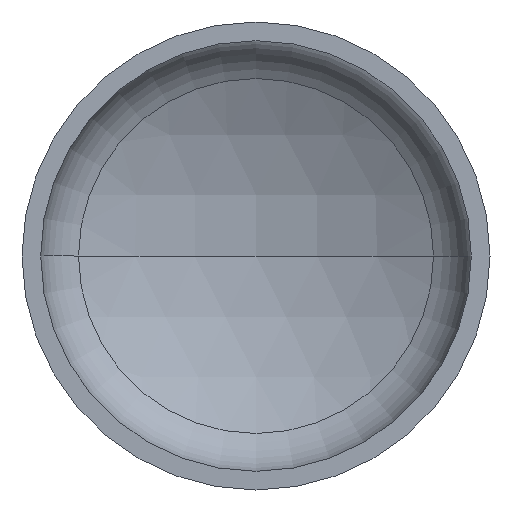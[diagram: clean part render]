
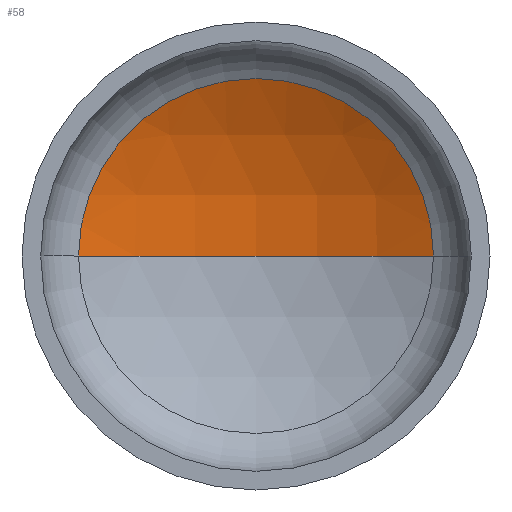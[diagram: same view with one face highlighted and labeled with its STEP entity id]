
A CAD part, front view. The second image highlights one B-rep face of the part: STEP entity #58.
In plain terms, the highlighted spherical face has radius 1120 mm.
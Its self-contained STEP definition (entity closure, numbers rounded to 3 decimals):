
#14 = EDGE_LOOP ( 'NONE', ( #70, #26, #20 ) ) ;
#20 = ORIENTED_EDGE ( 'NONE', *, *, #167, .T. ) ;
#26 = ORIENTED_EDGE ( 'NONE', *, *, #101, .T. ) ;
#49 = VERTEX_POINT ( 'NONE', #235 ) ;
#58 = ADVANCED_FACE ( 'NONE', ( #242 ), #307, .F. ) ;
#68 = VERTEX_POINT ( 'NONE', #333 ) ;
#70 = ORIENTED_EDGE ( 'NONE', *, *, #410, .F. ) ;
#84 = VERTEX_POINT ( 'NONE', #328 ) ;
#101 = EDGE_CURVE ( 'NONE', #49, #84, #375, .T. ) ;
#110 = AXIS2_PLACEMENT_3D ( 'NONE', #132, #133, #259 ) ;
#132 = CARTESIAN_POINT ( 'NONE',  ( 0., -676.859, 0. ) ) ;
#133 = DIRECTION ( 'NONE',  ( 0., 0., 1. ) ) ;
#167 = EDGE_CURVE ( 'NONE', #84, #68, #360, .T. ) ;
#168 = DIRECTION ( 'NONE',  ( 0., 0., -1. ) ) ;
#186 = DIRECTION ( 'NONE',  ( -1., 0., 0. ) ) ;
#192 = DIRECTION ( 'NONE',  ( 1., 0., 0. ) ) ;
#197 = CARTESIAN_POINT ( 'NONE',  ( 0., 309.309, 0. ) ) ;
#198 = DIRECTION ( 'NONE',  ( 0., -1., 0. ) ) ;
#201 = DIRECTION ( 'NONE',  ( 0., 0., -1. ) ) ;
#215 = DIRECTION ( 'NONE',  ( -1., 0., 0. ) ) ;
#235 = CARTESIAN_POINT ( 'NONE',  ( 0., 443.141, 0. ) ) ;
#242 = FACE_OUTER_BOUND ( 'NONE', #14, .T. ) ;
#258 = AXIS2_PLACEMENT_3D ( 'NONE', #309, #168, #186 ) ;
#259 = DIRECTION ( 'NONE',  ( 1., 0., 0. ) ) ;
#271 = AXIS2_PLACEMENT_3D ( 'NONE', #274, #201, #215 ) ;
#274 = CARTESIAN_POINT ( 'NONE',  ( 0., -676.859, 0. ) ) ;
#307 = SPHERICAL_SURFACE ( 'NONE', #271, 1120. ) ;
#309 = CARTESIAN_POINT ( 'NONE',  ( 0., -676.859, 0. ) ) ;
#328 = CARTESIAN_POINT ( 'NONE',  ( 530.917, 309.309, 0. ) ) ;
#333 = CARTESIAN_POINT ( 'NONE',  ( -530.917, 309.309, 0. ) ) ;
#360 = CIRCLE ( 'NONE', #392, 530.917 ) ;
#375 = CIRCLE ( 'NONE', #258, 1120. ) ;
#392 = AXIS2_PLACEMENT_3D ( 'NONE', #197, #198, #192 ) ;
#410 = EDGE_CURVE ( 'NONE', #49, #68, #411, .T. ) ;
#411 = CIRCLE ( 'NONE', #110, 1120. ) ;
